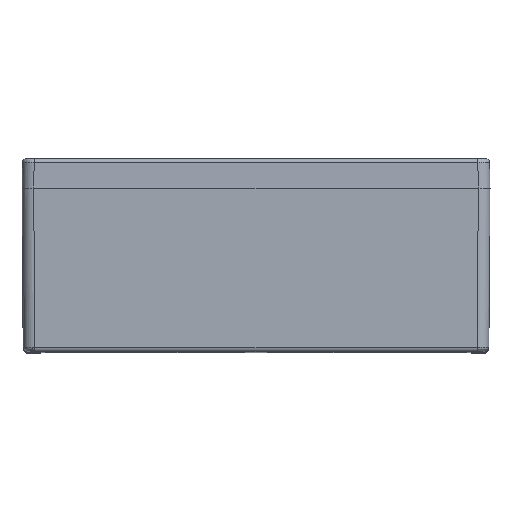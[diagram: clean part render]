
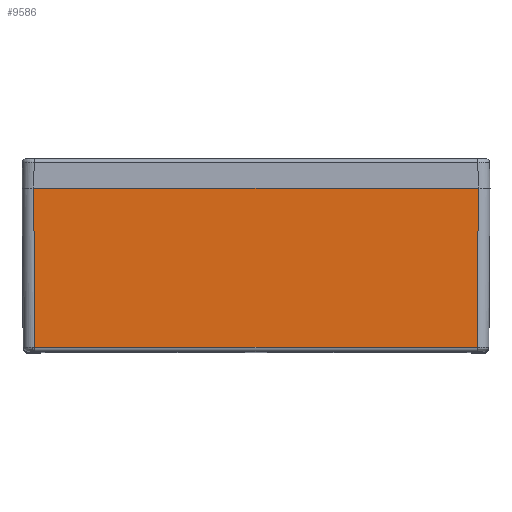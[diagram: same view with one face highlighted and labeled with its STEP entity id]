
A CAD part, top view. The second image highlights one B-rep face of the part: STEP entity #9586.
In plain terms, the highlighted planar face has unit normal (0, -0.007, 1).
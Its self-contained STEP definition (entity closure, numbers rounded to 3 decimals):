
#585=CARTESIAN_POINT('',(190.,0.,202.5));
#598=DIRECTION('',(-1.,0.,0.));
#599=VECTOR('',#598,380.001);
#600=CARTESIAN_POINT('',(190.,0.,202.5));
#601=LINE('',#600,#599);
#613=CARTESIAN_POINT('',(-190.,0.,202.5));
#3691=CARTESIAN_POINT('',(189.029,-136.029,201.528));
#3696=DIRECTION('',(-1.,0.,0.));
#3697=VECTOR('',#3696,378.057);
#3698=CARTESIAN_POINT('',(189.029,-136.029,201.528));
#3699=LINE('',#3698,#3697);
#3703=DIRECTION('',(-0.007,1.,0.007));
#3704=VECTOR('',#3703,136.036);
#3705=CARTESIAN_POINT('',(-189.029,-136.029,
201.528));
#3706=LINE('',#3705,#3704);
#3710=DIRECTION('',(0.007,1.,0.007));
#3711=VECTOR('',#3710,136.036);
#3712=CARTESIAN_POINT('',(189.029,-136.029,201.528));
#3713=LINE('',#3712,#3711);
#4406=VERTEX_POINT('',#585);
#4409=VERTEX_POINT('',#613);
#4423=VERTEX_POINT('',#3691);
#4426=CARTESIAN_POINT('',(-189.029,-136.029,
201.528));
#4427=VERTEX_POINT('',#4426);
#9574=CARTESIAN_POINT('',(0.,-70.,202.));
#9575=DIRECTION('',(0.,-0.007,1.));
#9576=DIRECTION('',(1.,0.,0.));
#9577=AXIS2_PLACEMENT_3D('',#9574,#9575,#9576);
#9578=PLANE('',#9577);
#9579=ORIENTED_EDGE('',*,*,#9282,.T.);
#9581=ORIENTED_EDGE('',*,*,#9580,.T.);
#9582=ORIENTED_EDGE('',*,*,#4913,.F.);
#9583=ORIENTED_EDGE('',*,*,#9567,.F.);
#9584=EDGE_LOOP('',(#9579,#9581,#9582,#9583));
#9585=FACE_OUTER_BOUND('',#9584,.F.);
#4913=EDGE_CURVE('',#4406,#4409,#601,.T.);
#9282=EDGE_CURVE('',#4423,#4427,#3699,.T.);
#9567=EDGE_CURVE('',#4423,#4406,#3713,.T.);
#9580=EDGE_CURVE('',#4427,#4409,#3706,.T.);
#9586=ADVANCED_FACE('',(#9585),#9578,.T.);
